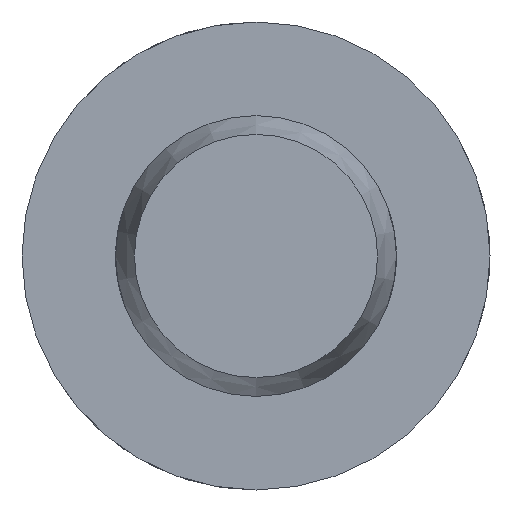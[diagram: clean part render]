
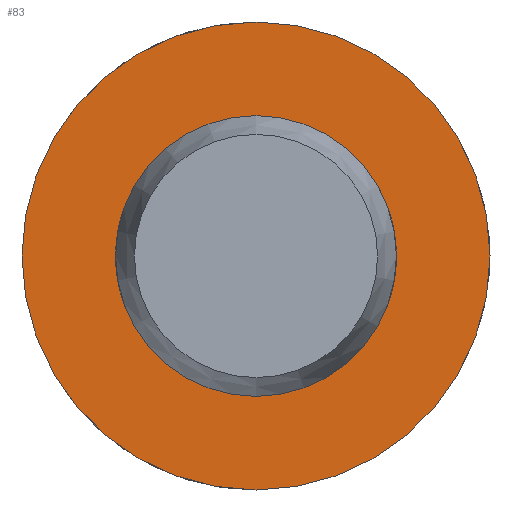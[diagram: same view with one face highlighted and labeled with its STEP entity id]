
A CAD part, left-side view. The second image highlights one B-rep face of the part: STEP entity #83.
In plain terms, the highlighted planar face has unit normal (-1, 0, 0).
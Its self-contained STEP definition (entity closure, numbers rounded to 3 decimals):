
#83 = ADVANCED_FACE( '', ( #128, #129 ), #130, .F. );
#128 = FACE_OUTER_BOUND( '', #205, .T. );
#129 = FACE_BOUND( '', #206, .T. );
#130 = PLANE( '', #207 );
#205 = EDGE_LOOP( '', ( #320 ) );
#206 = EDGE_LOOP( '', ( #321 ) );
#207 = AXIS2_PLACEMENT_3D( '', #322, #323, #324 );
#320 = ORIENTED_EDGE( '', *, *, #484, .F. );
#321 = ORIENTED_EDGE( '', *, *, #474, .T. );
#322 = CARTESIAN_POINT( '', ( 60.6, 6., 0. ) );
#323 = DIRECTION( '', ( 1., 0., 0. ) );
#324 = DIRECTION( '', ( 0., 0., -1. ) );
#474 = EDGE_CURVE( '', #545, #545, #546, .T. );
#484 = EDGE_CURVE( '', #563, #563, #564, .T. );
#545 = VERTEX_POINT( '', #734 );
#546 = CIRCLE( '', #735, 6. );
#563 = VERTEX_POINT( '', #903 );
#564 = CIRCLE( '', #904, 10. );
#734 = CARTESIAN_POINT( '', ( 60.6, 0., -6. ) );
#735 = AXIS2_PLACEMENT_3D( '', #965, #966, #967 );
#903 = CARTESIAN_POINT( '', ( 60.6, 0., -10. ) );
#904 = AXIS2_PLACEMENT_3D( '', #986, #987, #988 );
#965 = CARTESIAN_POINT( '', ( 60.6, 0., 0. ) );
#966 = DIRECTION( '', ( 1., 0., 0. ) );
#967 = DIRECTION( '', ( 0., 0., -1. ) );
#986 = CARTESIAN_POINT( '', ( 60.6, 0., 0. ) );
#987 = DIRECTION( '', ( 1., 0., 0. ) );
#988 = DIRECTION( '', ( 0., 0., -1. ) );
